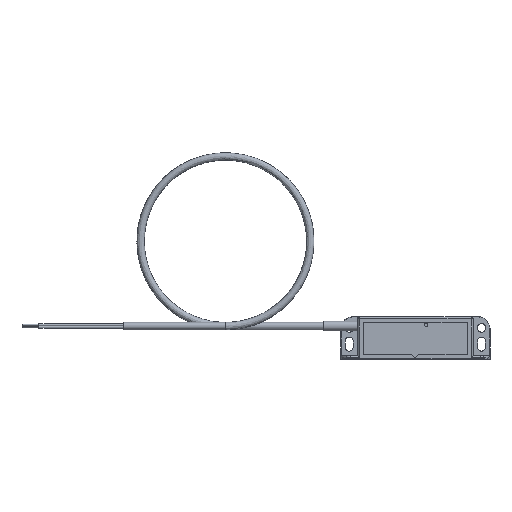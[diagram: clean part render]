
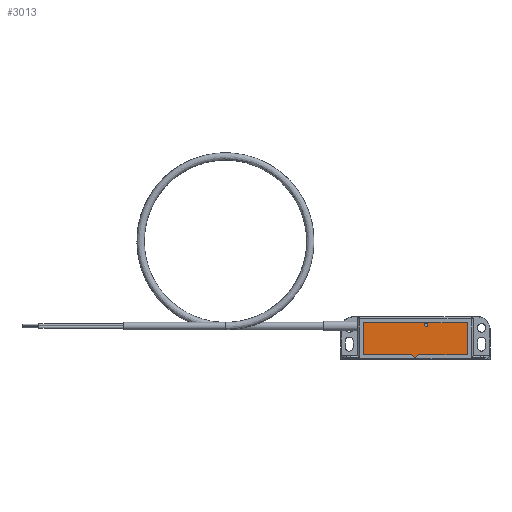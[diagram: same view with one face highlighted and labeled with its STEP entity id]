
A CAD part, top view. The second image highlights one B-rep face of the part: STEP entity #3013.
In plain terms, the highlighted planar face has unit normal (0, 0, 1).
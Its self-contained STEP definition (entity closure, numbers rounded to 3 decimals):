
#88=FACE_BOUND('',#558,.T.);
#126=CIRCLE('',#3137,1.);
#367=FACE_OUTER_BOUND('',#557,.T.);
#557=EDGE_LOOP('',(#2596,#2597,#2598,#2599,#2600,#2601,#2602,#2603,#2604,
#2605));
#558=EDGE_LOOP('',(#2606));
#843=LINE('',#5537,#1156);
#845=LINE('',#5542,#1158);
#852=LINE('',#5556,#1165);
#869=LINE('',#5589,#1182);
#872=LINE('',#5594,#1185);
#876=LINE('',#5602,#1189);
#878=LINE('',#5605,#1191);
#884=LINE('',#5701,#1197);
#886=LINE('',#5705,#1199);
#888=LINE('',#5708,#1201);
#1156=VECTOR('',#3961,10.);
#1158=VECTOR('',#3965,10.);
#1165=VECTOR('',#3974,10.);
#1182=VECTOR('',#3995,10.);
#1185=VECTOR('',#4000,10.);
#1189=VECTOR('',#4006,10.);
#1191=VECTOR('',#4010,10.);
#1197=VECTOR('',#4026,10.);
#1199=VECTOR('',#4030,10.);
#1201=VECTOR('',#4034,10.);
#1261=VERTEX_POINT('',#4964);
#1430=VERTEX_POINT('',#5534);
#1431=VERTEX_POINT('',#5536);
#1432=VERTEX_POINT('',#5540);
#1433=VERTEX_POINT('',#5541);
#1439=VERTEX_POINT('',#5554);
#1453=VERTEX_POINT('',#5588);
#1454=VERTEX_POINT('',#5592);
#1455=VERTEX_POINT('',#5596);
#1465=VERTEX_POINT('',#5700);
#1466=VERTEX_POINT('',#5704);
#1553=EDGE_CURVE('',#1261,#1261,#126,.T.);
#1808=EDGE_CURVE('',#1431,#1430,#843,.T.);
#1810=EDGE_CURVE('',#1432,#1433,#845,.T.);
#1817=EDGE_CURVE('',#1430,#1439,#852,.T.);
#1834=EDGE_CURVE('',#1453,#1431,#869,.T.);
#1837=EDGE_CURVE('',#1433,#1454,#872,.T.);
#1841=EDGE_CURVE('',#1455,#1432,#876,.T.);
#1843=EDGE_CURVE('',#1439,#1455,#878,.T.);
#1853=EDGE_CURVE('',#1465,#1453,#884,.T.);
#1855=EDGE_CURVE('',#1466,#1465,#886,.T.);
#1857=EDGE_CURVE('',#1454,#1466,#888,.T.);
#2596=ORIENTED_EDGE('',*,*,#1808,.T.);
#2597=ORIENTED_EDGE('',*,*,#1817,.T.);
#2598=ORIENTED_EDGE('',*,*,#1843,.T.);
#2599=ORIENTED_EDGE('',*,*,#1841,.T.);
#2600=ORIENTED_EDGE('',*,*,#1810,.T.);
#2601=ORIENTED_EDGE('',*,*,#1837,.T.);
#2602=ORIENTED_EDGE('',*,*,#1857,.T.);
#2603=ORIENTED_EDGE('',*,*,#1855,.T.);
#2604=ORIENTED_EDGE('',*,*,#1853,.T.);
#2605=ORIENTED_EDGE('',*,*,#1834,.T.);
#2606=ORIENTED_EDGE('',*,*,#1553,.T.);
#2861=PLANE('',#3275);
#3013=ADVANCED_FACE('',(#367,#88),#2861,.F.);
#3137=AXIS2_PLACEMENT_3D('',#4965,#3495,#3496);
#3275=AXIS2_PLACEMENT_3D('',#5709,#4035,#4036);
#3495=DIRECTION('center_axis',(0.,0.,-1.));
#3496=DIRECTION('ref_axis',(1.,0.,0.));
#3961=DIRECTION('',(0.707,-0.707,0.));
#3965=DIRECTION('',(0.707,0.707,0.));
#3974=DIRECTION('',(0.,-1.,0.));
#3995=DIRECTION('',(1.,0.,0.));
#4000=DIRECTION('',(1.,0.,0.));
#4006=DIRECTION('',(0.,1.,0.));
#4010=DIRECTION('',(1.,0.,0.));
#4026=DIRECTION('',(0.,-1.,0.));
#4030=DIRECTION('',(-1.,0.,0.));
#4034=DIRECTION('',(0.,1.,0.));
#4035=DIRECTION('center_axis',(0.,0.,-1.));
#4036=DIRECTION('ref_axis',(-1.,0.,0.));
#4964=CARTESIAN_POINT('',(5.341,20.29,12.8));
#4965=CARTESIAN_POINT('Origin',(6.341,20.29,12.8));
#5534=CARTESIAN_POINT('',(-0.25,0.7,12.8));
#5536=CARTESIAN_POINT('',(-2.05,2.5,12.8));
#5537=CARTESIAN_POINT('',(-0.25,0.7,12.8));
#5540=CARTESIAN_POINT('',(0.25,0.7,12.8));
#5541=CARTESIAN_POINT('',(2.05,2.5,12.8));
#5542=CARTESIAN_POINT('',(2.05,2.5,12.8));
#5554=CARTESIAN_POINT('',(-0.25,0.323,12.8));
#5556=CARTESIAN_POINT('',(-0.25,0.,12.8));
#5588=CARTESIAN_POINT('',(-30.5,2.5,12.8));
#5589=CARTESIAN_POINT('',(30.5,2.5,12.8));
#5592=CARTESIAN_POINT('',(30.5,2.5,12.8));
#5594=CARTESIAN_POINT('',(30.5,2.5,12.8));
#5596=CARTESIAN_POINT('',(0.25,0.323,12.8));
#5602=CARTESIAN_POINT('',(0.25,0.7,12.8));
#5605=CARTESIAN_POINT('',(0.,0.323,12.8));
#5700=CARTESIAN_POINT('',(-30.5,21.5,12.8));
#5701=CARTESIAN_POINT('',(-30.5,2.5,12.8));
#5704=CARTESIAN_POINT('',(30.5,21.5,12.8));
#5705=CARTESIAN_POINT('',(-30.5,21.5,12.8));
#5708=CARTESIAN_POINT('',(30.5,21.5,12.8));
#5709=CARTESIAN_POINT('Origin',(0.,12.,12.8));
